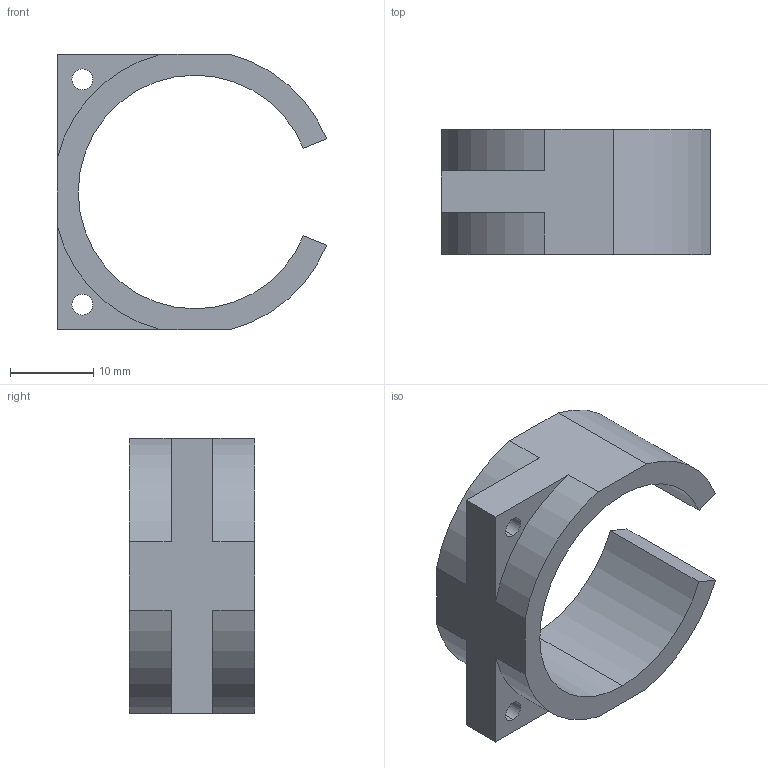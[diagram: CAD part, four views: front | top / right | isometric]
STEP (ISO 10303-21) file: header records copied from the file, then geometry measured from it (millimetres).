
FILE_DESCRIPTION (( 'STEP AP214' ), '1' );
FILE_NAME ('PJ-500.STEP', '2023-09-12T11:13:16', ( 'catia' ), ( 'HP Inc.' ), 'SwSTEP 2.0', 'SolidWorks 2021', '' );
FILE_SCHEMA (( 'AUTOMOTIVE_DESIGN' ));
Length unit declared in the file: millimetre
Products named in the file (1): PJ-500
Bounding box: 32.26 x 15 x 33 mm (x, y, z)
Volume: 4154.7 mm3; surface area: 3462.1 mm2
Topology: 1 solids, 1 shells, 24 faces, 66 edges, 44 vertices
Faces by surface type: cylinder 13, plane 11
Entity records: 818 total; most frequent: DIRECTION 142, CARTESIAN_POINT 135, ORIENTED_EDGE 132, EDGE_CURVE 66, AXIS2_PLACEMENT_3D 51, VERTEX_POINT 44, LINE 40, VECTOR 40
